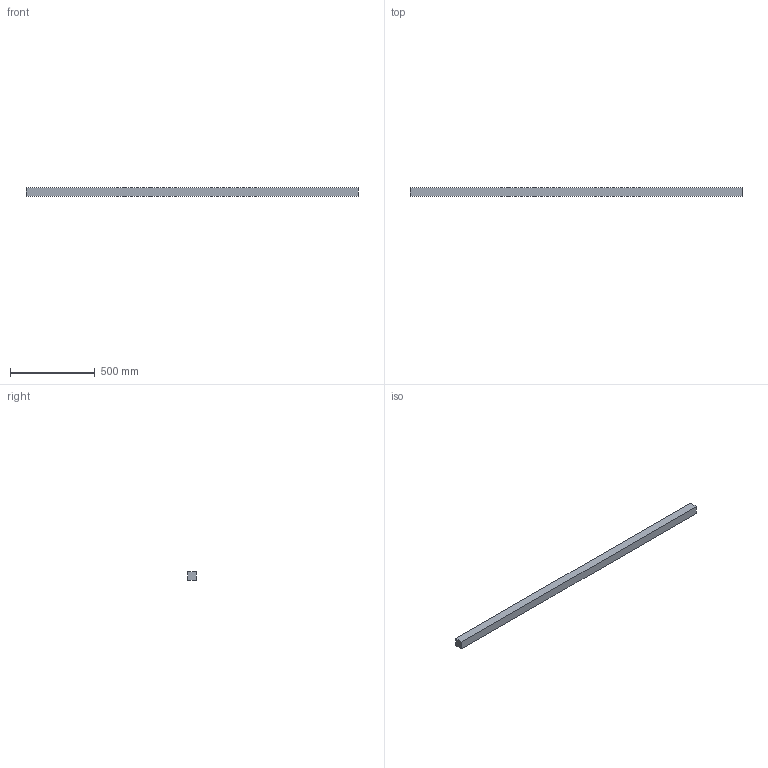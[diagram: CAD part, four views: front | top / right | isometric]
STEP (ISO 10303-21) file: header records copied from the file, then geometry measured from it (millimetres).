
FILE_DESCRIPTION(('Open CASCADE Model'),'2;1');
FILE_NAME('Open CASCADE Shape Model','2026-09-28T10:13:55',('Author'),( 'Open CASCADE'),'Open CASCADE STEP processor 7.9','Open CASCADE 7.9' ,'Unknown');
FILE_SCHEMA(('AUTOMOTIVE_DESIGN { 1 0 10303 214 1 1 1 1 }'));
Length unit declared in the file: millimetre
Products named in the file (1): Open CASCADE STEP translator 7.9 14
Bounding box: 1964 x 50 x 50 mm (x, y, z)
Volume: 4910000 mm3; surface area: 397800 mm2
Topology: 1 solids, 1 shells, 6 faces, 12 edges, 8 vertices
Faces by surface type: plane 6
Entity records: 322 total; most frequent: CARTESIAN_POINT 51, DIRECTION 50, LINE 36, VECTOR 36, ORIENTED_EDGE 24, PCURVE 24, DEFINITIONAL_REPRESENTATION 24, EDGE_CURVE 12
